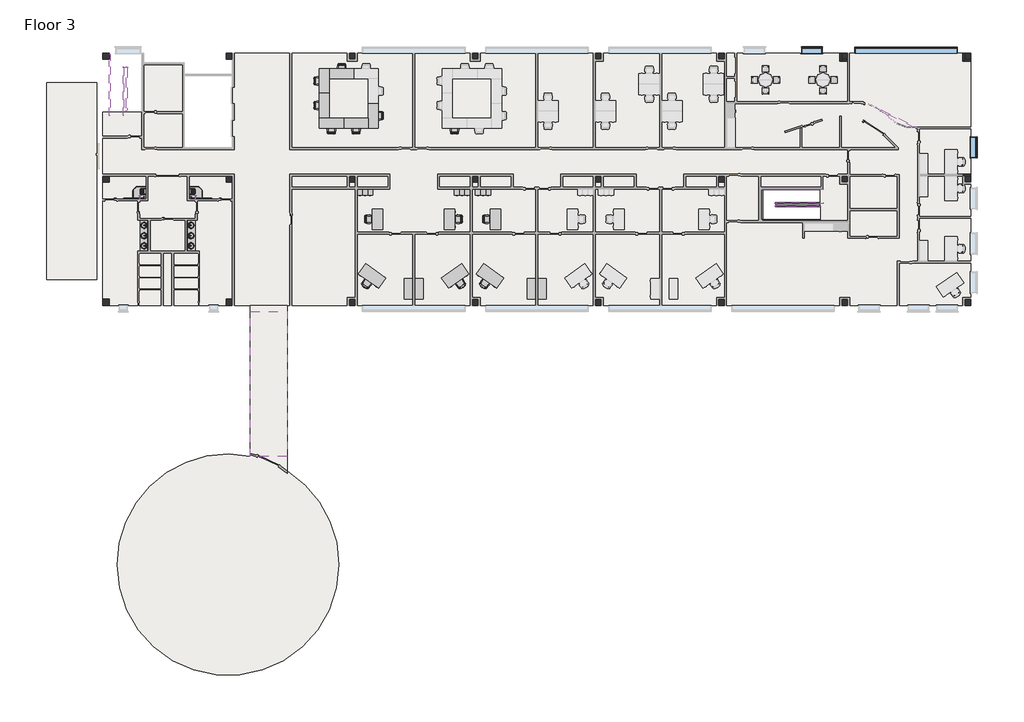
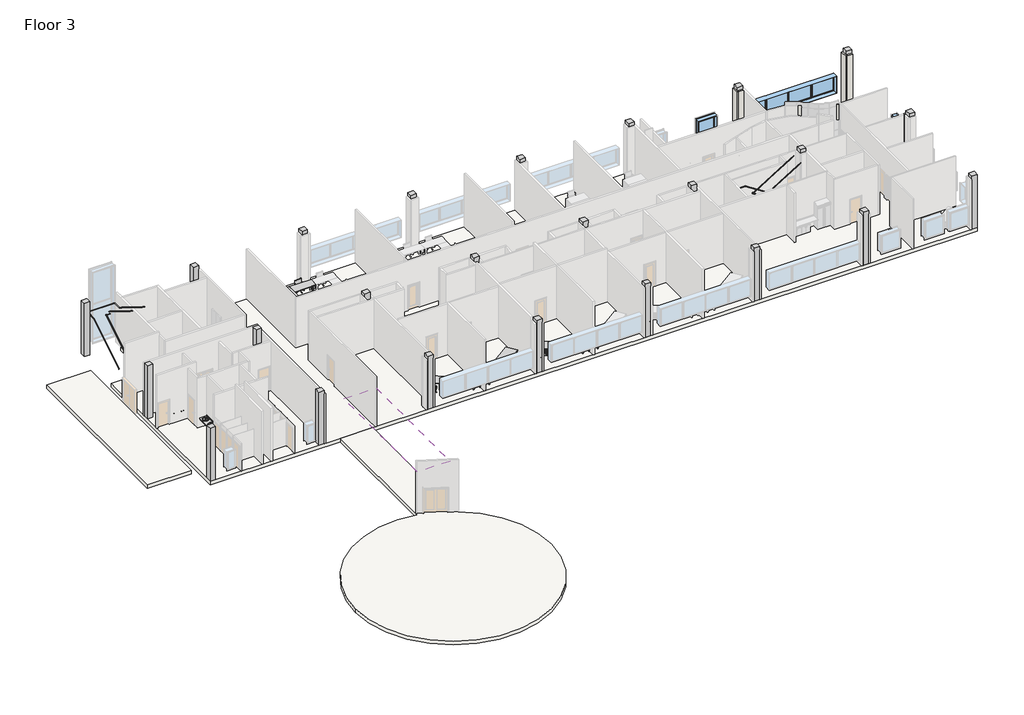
# One storey, part 5 of 6: 40 furniture elements, 24 columns, 16 flow terminals, 6 railings, 6 walls, 3 slabs, 3 windows, 1 covering.
"""IFC4 building model written with IfcOpenShell, lengths in millimetres."""

from ifc_helpers import new_model, si_unit, point, frame, frame_2d, origin, place, context, project, spatial, polyline, circle_curve, trimmed, segment, composite_curve, outline, extrude, faceted_brep, transform, mapped, element, save
from components import column_2b57f2af, grab_rail_horizontal_grab_bar_horizontal_3488bc9b, grab_rail_horizontal_grab_bar_horizontal_f73a8c0c, shower_head_shower_head_b2a460ee, shower_head_shower_head_3f4786c7, shower_seat_e35f25db, shower_seat_bb0cd458, shower_tray_2_floor_shower_tray_997da0d4, shower_tray_2_floor_shower_tray_7a1f724c, sink_vanity_round_basin_6ecf7a68, furniture_552c1472, furniture_48aa8ab9, chair_executive_chair_executive_8d69e98c, chair_executive_chair_executive_a5be4872, chair_task_arms_chair_task_arms_fa5a08ef, chair_task_arms_chair_task_arms_3c69ee15, furniture_0f0bb7e9, furniture_a9e97cbc, furniture_f1eb905c, furniture_e30ff25b, furniture_33f25304, furniture_65204735, plumbing_fixtures_counter_top_w_sinks_2400x600x850mm_820859b4, furniture_a5b052b6, stair_railing_1_335de554, stair_railing_1_2cf15c4a, stair_railing_1_d57b5f3b, stair_railing_1_04a2c75b, stair_railing_1_a30edcdb, stair_railing_1_ea28da98, window_casement_multi_sash_horizontal_25_x_5ft_0e5d08e3, window_45f0c9e0

model = new_model("IFC4")

# Units and contexts
model_context = context("Model", 3, world=origin())
ifc_project = project(units=[si_unit("LENGTHUNIT", "METRE", prefix="MILLI")], contexts=[model_context])

# Site, building, storey
site = spatial("IfcSite", under=ifc_project)
building = spatial("IfcBuilding", under=site)
storey = spatial("IfcBuildingStorey", under=building, Name="Floor 3", Elevation=10210.8)

# Columns
placement = place(None, origin())
element("IfcColumn", 1, ObjectType="Rectangular Column1 : 18\" x 18\"", at=placement, inside=storey, context=model_context, shape_type="SweptSolid", body=[
    extrude(outline(polyline([(6637.3692024, 39077.111889), (6637.3692024, 38619.911889), (6180.1692024, 38619.911889), (6180.1692024, 39077.111889), (6637.3692024, 39077.111889)])), frame((0.0, 0.0, 10210.8), z_axis=(0.0, 0.0, 1.0), x_axis=(1.0, 0.0, 0.0)), (0.0, 0.0, 1.0), 4724.4),
])
element("IfcColumn", 2, ObjectType="Rectangular Column1 : 18\" x 18\"", at=placement, inside=storey, context=model_context, shape_type="SweptSolid", body=[
    extrude(outline(polyline([(15781.3692024, 39077.111889), (15781.3692024, 38619.911889), (15324.1692024, 38619.911889), (15324.1692024, 39077.111889), (15781.3692024, 39077.111889)])), frame((0.0, 0.0, 10210.8), z_axis=(0.0, 0.0, 1.0), x_axis=(1.0, 0.0, 0.0)), (0.0, 0.0, 1.0), 4724.4),
])
element("IfcColumn", 3, ObjectType="Rectangular Column1 : 18\" x 18\"", at=placement, inside=storey, context=model_context, shape_type="SweptSolid", body=[
    extrude(outline(polyline([(24925.3692024, 39077.111889), (24925.3692024, 38619.911889), (24468.1692024, 38619.911889), (24468.1692024, 39077.111889), (24925.3692024, 39077.111889)])), frame((0.0, 0.0, 10210.8), z_axis=(0.0, 0.0, 1.0), x_axis=(1.0, 0.0, 0.0)), (0.0, 0.0, 1.0), 4724.4),
])
element("IfcColumn", 4, ObjectType="Rectangular Column1 : 18\" x 18\"", at=placement, inside=storey, context=model_context, shape_type="SweptSolid", body=[
    extrude(outline(polyline([(34069.3692024, 39077.111889), (34069.3692024, 38619.911889), (33612.1692024, 38619.911889), (33612.1692024, 39077.111889), (34069.3692024, 39077.111889)])), frame((0.0, 0.0, 10210.8), z_axis=(0.0, 0.0, 1.0), x_axis=(1.0, 0.0, 0.0)), (0.0, 0.0, 1.0), 4724.4),
])
element("IfcColumn", 5, ObjectType="Rectangular Column1 : 18\" x 18\"", at=placement, inside=storey, context=model_context, shape_type="SweptSolid", body=[
    extrude(outline(polyline([(43213.3692024, 39077.111889), (43213.3692024, 38619.911889), (42756.1692024, 38619.911889), (42756.1692024, 39077.111889), (43213.3692024, 39077.111889)])), frame((0.0, 0.0, 10210.8), z_axis=(0.0, 0.0, 1.0), x_axis=(1.0, 0.0, 0.0)), (0.0, 0.0, 1.0), 4724.4),
])
element("IfcColumn", 6, ObjectType="Rectangular Column1 : 18\" x 18\"", at=placement, inside=storey, context=model_context, shape_type="SweptSolid", body=[
    extrude(outline(polyline([(52357.3692024, 39077.111889), (52357.3692024, 38619.911889), (51900.1692024, 38619.911889), (51900.1692024, 39077.111889), (52357.3692024, 39077.111889)])), frame((0.0, 0.0, 10210.8), z_axis=(0.0, 0.0, 1.0), x_axis=(1.0, 0.0, 0.0)), (0.0, 0.0, 1.0), 4724.4),
])
element("IfcColumn", 7, ObjectType="Rectangular Column1 : 18\" x 18\"", at=placement, inside=storey, context=model_context, shape_type="SweptSolid", body=[
    extrude(outline(polyline([(61501.3692024, 39077.111889), (61501.3692024, 38619.911889), (61044.1692024, 38619.911889), (61044.1692024, 39077.111889), (61501.3692024, 39077.111889)])), frame((0.0, 0.0, 10210.8), z_axis=(0.0, 0.0, 1.0), x_axis=(1.0, 0.0, 0.0)), (0.0, 0.0, 1.0), 4724.4),
])
element("IfcColumn", 8, ObjectType="Rectangular Column1 : 18\" x 18\"", at=placement, inside=storey, context=model_context, shape_type="SweptSolid", body=[
    extrude(outline(polyline([(-2506.6307976, 48221.111889), (-2506.6307976, 47763.911889), (-2963.8307976, 47763.911889), (-2963.8307976, 48221.111889), (-2506.6307976, 48221.111889)])), frame((0.0, 0.0, 10210.8), z_axis=(0.0, 0.0, 1.0), x_axis=(1.0, 0.0, 0.0)), (0.0, 0.0, 1.0), 4724.4),
])
element("IfcColumn", 9, ObjectType="Rectangular Column1 : 18\" x 18\"", at=placement, inside=storey, context=model_context, shape_type="SweptSolid", body=[
    extrude(outline(polyline([(6637.3692024, 48221.111889), (6637.3692024, 47763.911889), (6180.1692024, 47763.911889), (6180.1692024, 48221.111889), (6637.3692024, 48221.111889)])), frame((0.0, 0.0, 10210.8), z_axis=(0.0, 0.0, 1.0), x_axis=(1.0, 0.0, 0.0)), (0.0, 0.0, 1.0), 4724.4),
])
element("IfcColumn", 10, ObjectType="Rectangular Column1 : 18\" x 18\"", at=placement, inside=storey, context=model_context, shape_type="SweptSolid", body=[
    extrude(outline(polyline([(15781.3692024, 48221.111889), (15781.3692024, 47763.911889), (15324.1692024, 47763.911889), (15324.1692024, 48221.111889), (15781.3692024, 48221.111889)])), frame((0.0, 0.0, 10210.8), z_axis=(0.0, 0.0, 1.0), x_axis=(1.0, 0.0, 0.0)), (0.0, 0.0, 1.0), 4724.4),
])
element("IfcColumn", 11, ObjectType="Rectangular Column1 : 18\" x 18\"", at=placement, inside=storey, context=model_context, shape_type="SweptSolid", body=[
    extrude(outline(polyline([(24925.3692024, 48221.111889), (24925.3692024, 47763.911889), (24468.1692024, 47763.911889), (24468.1692024, 48221.111889), (24925.3692024, 48221.111889)])), frame((0.0, 0.0, 10210.8), z_axis=(0.0, 0.0, 1.0), x_axis=(1.0, 0.0, 0.0)), (0.0, 0.0, 1.0), 4724.4),
])
element("IfcColumn", 12, ObjectType="Rectangular Column1 : 18\" x 18\"", at=placement, inside=storey, context=model_context, shape_type="SweptSolid", body=[
    extrude(outline(polyline([(34069.3692024, 48221.111889), (34069.3692024, 47763.911889), (33612.1692024, 47763.911889), (33612.1692024, 48221.111889), (34069.3692024, 48221.111889)])), frame((0.0, 0.0, 10210.8), z_axis=(0.0, 0.0, 1.0), x_axis=(1.0, 0.0, 0.0)), (0.0, 0.0, 1.0), 4724.4),
])
element("IfcColumn", 13, ObjectType="Rectangular Column1 : 18\" x 18\"", at=placement, inside=storey, context=model_context, shape_type="SweptSolid", body=[
    extrude(outline(polyline([(43213.3692024, 48221.111889), (43213.3692024, 47763.911889), (42756.1692024, 47763.911889), (42756.1692024, 48221.111889), (43213.3692024, 48221.111889)])), frame((0.0, 0.0, 10210.8), z_axis=(0.0, 0.0, 1.0), x_axis=(1.0, 0.0, 0.0)), (0.0, 0.0, 1.0), 4724.4),
])
element("IfcColumn", 14, ObjectType="Rectangular Column1 : 18\" x 18\"", at=placement, inside=storey, context=model_context, shape_type="SweptSolid", body=[
    extrude(outline(polyline([(52354.1942024, 48221.111889), (52354.1942024, 47763.911889), (51896.9942024, 47763.911889), (51896.9942024, 48221.111889), (52354.1942024, 48221.111889)])), frame((0.0, 0.0, 10210.8), z_axis=(0.0, 0.0, 1.0), x_axis=(1.0, 0.0, 0.0)), (0.0, 0.0, 1.0), 4724.4),
])
element("IfcColumn", 15, ObjectType="Rectangular Column1 : 18\" x 18\"", at=placement, inside=storey, context=model_context, shape_type="SweptSolid", body=[
    extrude(outline(polyline([(61501.3692024, 48221.111889), (61501.3692024, 47763.911889), (61044.1692024, 47763.911889), (61044.1692024, 48221.111889), (61501.3692024, 48221.111889)])), frame((0.0, 0.0, 10210.8), z_axis=(0.0, 0.0, 1.0), x_axis=(1.0, 0.0, 0.0)), (0.0, 0.0, 1.0), 4724.4),
])
element("IfcColumn", 16, ObjectType="Rectangular Column1 : 18\" x 18\"", at=placement, inside=storey, context=model_context, shape_type="SweptSolid", body=[
    extrude(outline(polyline([(6637.3692024, 57365.111889), (6637.3692024, 56907.911889), (6180.1692024, 56907.911889), (6180.1692024, 57365.111889), (6637.3692024, 57365.111889)])), frame((0.0, 0.0, 10210.8), z_axis=(0.0, 0.0, 1.0), x_axis=(1.0, 0.0, 0.0)), (0.0, 0.0, 1.0), 4724.4),
])
element("IfcColumn", 17, ObjectType="Rectangular Column1 : 18\" x 18\"", at=placement, inside=storey, context=model_context, shape_type="SweptSolid", body=[
    extrude(outline(polyline([(15781.3692024, 57365.111889), (15781.3692024, 56907.911889), (15324.1692024, 56907.911889), (15324.1692024, 57365.111889), (15781.3692024, 57365.111889)])), frame((0.0, 0.0, 10210.8), z_axis=(0.0, 0.0, 1.0), x_axis=(1.0, 0.0, 0.0)), (0.0, 0.0, 1.0), 4724.4),
])
element("IfcColumn", 18, ObjectType="Rectangular Column1 : 18\" x 18\"", at=placement, inside=storey, context=model_context, shape_type="SweptSolid", body=[
    extrude(outline(polyline([(24925.3692024, 57365.111889), (24925.3692024, 56907.911889), (24468.1692024, 56907.911889), (24468.1692024, 57365.111889), (24925.3692024, 57365.111889)])), frame((0.0, 0.0, 10210.8), z_axis=(0.0, 0.0, 1.0), x_axis=(1.0, 0.0, 0.0)), (0.0, 0.0, 1.0), 4724.4),
])
element("IfcColumn", 19, ObjectType="Rectangular Column1 : 18\" x 18\"", at=placement, inside=storey, context=model_context, shape_type="SweptSolid", body=[
    extrude(outline(polyline([(34069.3692024, 57365.111889), (34069.3692024, 56907.911889), (33612.1692024, 56907.911889), (33612.1692024, 57365.111889), (34069.3692024, 57365.111889)])), frame((0.0, 0.0, 10210.8), z_axis=(0.0, 0.0, 1.0), x_axis=(1.0, 0.0, 0.0)), (0.0, 0.0, 1.0), 4724.4),
])
element("IfcColumn", 20, ObjectType="Rectangular Column1 : 18\" x 18\"", at=placement, inside=storey, context=model_context, shape_type="SweptSolid", body=[
    extrude(outline(polyline([(43213.3692024, 57365.111889), (43213.3692024, 56907.911889), (42756.1692024, 56907.911889), (42756.1692024, 57365.111889), (43213.3692024, 57365.111889)])), frame((0.0, 0.0, 10210.8), z_axis=(0.0, 0.0, 1.0), x_axis=(1.0, 0.0, 0.0)), (0.0, 0.0, 1.0), 4724.4),
])
element("IfcColumn", 21, ObjectType="Rectangular Column1 : 18\" x 18\"", at=placement, inside=storey, context=model_context, shape_type="SweptSolid", body=[
    extrude(outline(polyline([(52357.3692024, 57365.111889), (52357.3692024, 56907.911889), (51900.1692024, 56907.911889), (51900.1692024, 57365.111889), (52357.3692024, 57365.111889)])), frame((0.0, 0.0, 10210.8), z_axis=(0.0, 0.0, 1.0), x_axis=(1.0, 0.0, 0.0)), (0.0, 0.0, 1.0), 4724.4),
])
element("IfcColumn", 22, ObjectType="Rectangular Column1 : 18\" x 18\"", at=placement, inside=storey, context=model_context, shape_type="SweptSolid", body=[
    extrude(outline(polyline([(61501.3692024, 57365.111889), (61501.3692024, 56907.911889), (61044.1692024, 56907.911889), (61044.1692024, 57365.111889), (61501.3692024, 57365.111889)])), frame((0.0, 0.0, 10210.8), z_axis=(0.0, 0.0, 1.0), x_axis=(1.0, 0.0, 0.0)), (0.0, 0.0, 1.0), 4724.4),
])
column_shape = column_2b57f2af(model_context)
element("IfcColumn", 23, ObjectType="Rectangular Column1 : 18\" x 18\"", at=placement, inside=storey, context=model_context, shape_type="MappedRepresentation", body=[
    mapped(column_shape, transform((-2735.2307976, 38848.511889, 0.0), x_axis=(1.0, 0.0, 0.0), y_axis=(0.0, 1.0, 0.0), z_axis=(0.0, 0.0, 1.0))),
])
element("IfcColumn", 24, ObjectType="Rectangular Column1 : 18\" x 18\"", at=placement, inside=storey, context=model_context, shape_type="MappedRepresentation", body=[
    mapped(column_shape, transform((-2735.2307976, 57136.511889, 0.0), x_axis=(1.0, 0.0, 0.0), y_axis=(0.0, 1.0, 0.0), z_axis=(0.0, 0.0, 1.0))),
])

# Covering
element("IfcCovering", 25, ObjectType="2' x 2' ACT System", at=placement, inside=storey, context=model_context, shape_type="SweptSolid", body=[
    extrude(outline(polyline([(7986.4026119, 38164.299389), (10723.2526119, 38164.299389), (10723.2526119, 27403.0208402), (7986.4026119, 27403.0208402), (7986.4026119, 38164.299389)])), frame((0.0, 0.0, 14020.8), z_axis=(0.0, 0.0, 1.0), x_axis=(1.0, 0.0, 0.0)), (0.0, 0.0, 1.0), 57.15),
])

# Flow terminals
grab_rail_horizontal_grab_bar_horizontal_shape = grab_rail_horizontal_grab_bar_horizontal_3488bc9b(model_context)
element("IfcFlowTerminal", 26, ObjectType="Grab Rail - Horizontal : Grab Bar Horizontal", at=placement, inside=storey, context=model_context, shape_type="MappedRepresentation", body=[
    mapped(grab_rail_horizontal_grab_bar_horizontal_shape, transform((3129.9735359, 46520.961889, 10210.8), x_axis=(-1.0, 0.0, 0.0), y_axis=(0.0, -1.0, 0.0), z_axis=(0.0, 0.0, 1.0))),
])
element("IfcFlowTerminal", 27, ObjectType="Grab Rail - Horizontal : Grab Bar Horizontal", at=placement, inside=storey, context=model_context, shape_type="MappedRepresentation", body=[
    mapped(grab_rail_horizontal_grab_bar_horizontal_shape, transform((3939.9735359, 46520.961889, 10210.8), x_axis=(-1.0, 0.0, 0.0), y_axis=(0.0, -1.0, 0.0), z_axis=(0.0, 0.0, 1.0))),
])
grab_rail_horizontal_grab_bar_horizontal_2_shape = grab_rail_horizontal_grab_bar_horizontal_f73a8c0c(model_context)
element("IfcFlowTerminal", 28, ObjectType="Grab Rail - Horizontal : Grab Bar Horizontal", at=placement, inside=storey, context=model_context, shape_type="MappedRepresentation", body=[
    mapped(grab_rail_horizontal_grab_bar_horizontal_2_shape, transform((543.5648689, 46520.961889, 10210.8), x_axis=(1.0, 0.0, 0.0), y_axis=(0.0, 1.0, 0.0), z_axis=(0.0, 0.0, 1.0))),
])
element("IfcFlowTerminal", 29, ObjectType="Grab Rail - Horizontal : Grab Bar Horizontal", at=placement, inside=storey, context=model_context, shape_type="MappedRepresentation", body=[
    mapped(grab_rail_horizontal_grab_bar_horizontal_2_shape, transform((-266.4351311, 46520.961889, 10210.8), x_axis=(1.0, 0.0, 0.0), y_axis=(0.0, 1.0, 0.0), z_axis=(0.0, 0.0, 1.0))),
])
shower_head_shower_head_shape = shower_head_shower_head_b2a460ee(model_context)
element("IfcFlowTerminal", 30, ObjectType="Shower Head : Shower Head", at=placement, inside=storey, context=model_context, shape_type="MappedRepresentation", body=[
    mapped(shower_head_shower_head_shape, transform((-227.2307976, 46520.961889, 10210.8), x_axis=(1.0, 0.0, 0.0), y_axis=(0.0, 1.0, 0.0), z_axis=(0.0, 0.0, 1.0))),
])
shower_head_shower_head_2_shape = shower_head_shower_head_3f4786c7(model_context)
element("IfcFlowTerminal", 31, ObjectType="Shower Head : Shower Head", at=placement, inside=storey, context=model_context, shape_type="MappedRepresentation", body=[
    mapped(shower_head_shower_head_2_shape, transform((3900.7692024, 46520.961889, 10210.8), x_axis=(-1.0, 0.0, 0.0), y_axis=(0.0, -1.0, 0.0), z_axis=(0.0, 0.0, 1.0))),
])
shower_seat_shape = shower_seat_e35f25db(model_context)
element("IfcFlowTerminal", 32, ObjectType="Shower - Disabled  Seat : Shower Seat", at=placement, inside=storey, context=model_context, shape_type="MappedRepresentation", body=[
    mapped(shower_seat_shape, transform((242.9192024, 47086.6956616, 10210.8), x_axis=(0.0, 1.0, 0.0), y_axis=(-1.0, 0.0, 0.0), z_axis=(0.0, 0.0, 1.0))),
])
shower_seat_2_shape = shower_seat_bb0cd458(model_context)
element("IfcFlowTerminal", 33, ObjectType="Shower - Disabled  Seat : Shower Seat", at=placement, inside=storey, context=model_context, shape_type="MappedRepresentation", body=[
    mapped(shower_seat_2_shape, transform((3430.6192024, 47086.6956616, 10210.8), x_axis=(0.0, 1.0, 0.0), y_axis=(-1.0, 0.0, 0.0), z_axis=(0.0, 0.0, 1.0))),
])
shower_tray_2_floor_shower_tray_shape = shower_tray_2_floor_shower_tray_997da0d4(model_context)
element("IfcFlowTerminal", 34, ObjectType="Shower Tray (2) : Floor Shower Tray", at=placement, inside=storey, context=model_context, shape_type="MappedRepresentation", body=[
    mapped(shower_tray_2_floor_shower_tray_shape, transform((3430.6192024, 46520.961889, 10210.8), x_axis=(0.0, -1.0, 0.0), y_axis=(1.0, 0.0, 0.0), z_axis=(0.0, 0.0, 1.0))),
])
shower_tray_2_floor_shower_tray_2_shape = shower_tray_2_floor_shower_tray_7a1f724c(model_context)
element("IfcFlowTerminal", 35, ObjectType="Shower Tray (2) : Floor Shower Tray", at=placement, inside=storey, context=model_context, shape_type="MappedRepresentation", body=[
    mapped(shower_tray_2_floor_shower_tray_2_shape, transform((242.9192024, 46520.961889, 10210.8), x_axis=(0.0, -1.0, 0.0), y_axis=(1.0, 0.0, 0.0), z_axis=(0.0, 0.0, 1.0))),
])
sink_vanity_round_basin_shape = sink_vanity_round_basin_6ecf7a68(model_context)
element("IfcFlowTerminal", 36, ObjectType="Sink - Vanity - Round : Basin", at=placement, inside=storey, context=model_context, shape_type="MappedRepresentation", body=[
    mapped(sink_vanity_round_basin_shape, transform((10.1514839, 43898.1636296, 10286.6), x_axis=(0.0, -1.0, 0.0), y_axis=(1.0, 0.0, 0.0), z_axis=(0.0, 0.0, 1.0))),
])
element("IfcFlowTerminal", 37, ObjectType="Sink - Vanity - Round : Basin", at=placement, inside=storey, context=model_context, shape_type="MappedRepresentation", body=[
    mapped(sink_vanity_round_basin_shape, transform((10.1514839, 44660.1636296, 10287.0), x_axis=(0.0, -1.0, 0.0), y_axis=(1.0, 0.0, 0.0), z_axis=(0.0, 0.0, 1.0))),
])
element("IfcFlowTerminal", 38, ObjectType="Sink - Vanity - Round : Basin", at=placement, inside=storey, context=model_context, shape_type="MappedRepresentation", body=[
    mapped(sink_vanity_round_basin_shape, transform((10.1514839, 43136.1636296, 10286.2), x_axis=(0.0, -1.0, 0.0), y_axis=(1.0, 0.0, 0.0), z_axis=(0.0, 0.0, 1.0))),
])
element("IfcFlowTerminal", 39, ObjectType="Sink - Vanity - Round : Basin", at=placement, inside=storey, context=model_context, shape_type="MappedRepresentation", body=[
    mapped(sink_vanity_round_basin_shape, transform((3663.3869209, 43704.8601484, 10286.6), x_axis=(0.0, 1.0, 0.0), y_axis=(-1.0, 0.0, 0.0), z_axis=(0.0, 0.0, 1.0))),
])
element("IfcFlowTerminal", 40, ObjectType="Sink - Vanity - Round : Basin", at=placement, inside=storey, context=model_context, shape_type="MappedRepresentation", body=[
    mapped(sink_vanity_round_basin_shape, transform((3663.3869209, 42942.8601484, 10287.0), x_axis=(0.0, 1.0, 0.0), y_axis=(-1.0, 0.0, 0.0), z_axis=(0.0, 0.0, 1.0))),
])
element("IfcFlowTerminal", 41, ObjectType="Sink - Vanity - Round : Basin", at=placement, inside=storey, context=model_context, shape_type="MappedRepresentation", body=[
    mapped(sink_vanity_round_basin_shape, transform((3663.3869209, 44466.8601484, 10286.2), x_axis=(0.0, 1.0, 0.0), y_axis=(-1.0, 0.0, 0.0), z_axis=(0.0, 0.0, 1.0))),
])

# Furniture
furniture_shape = furniture_552c1472(model_context)
element("IfcFurniture", 42, ObjectType="Cabinet-File 3 Drawer : 15\" x 18\"", at=placement, inside=storey, context=model_context, shape_type="MappedRepresentation", body=[
    mapped(furniture_shape, transform((25015.1656494, 47175.7961891, 10210.8), x_axis=(1.0, 0.0, 0.0), y_axis=(0.0, 1.0, 0.0), z_axis=(0.0, 0.0, 1.0))),
])
element("IfcFurniture", 43, ObjectType="Cabinet-File 3 Drawer : 15\" x 18\"", at=placement, inside=storey, context=model_context, shape_type="MappedRepresentation", body=[
    mapped(furniture_shape, transform((25396.1656494, 47175.7961891, 10210.8), x_axis=(1.0, 0.0, 0.0), y_axis=(0.0, 1.0, 0.0), z_axis=(0.0, 0.0, 1.0))),
])
element("IfcFurniture", 44, ObjectType="Cabinet-File 3 Drawer : 15\" x 18\"", at=placement, inside=storey, context=model_context, shape_type="MappedRepresentation", body=[
    mapped(furniture_shape, transform((25777.1656494, 47175.7961891, 10210.8), x_axis=(1.0, 0.0, 0.0), y_axis=(0.0, 1.0, 0.0), z_axis=(0.0, 0.0, 1.0))),
])
element("IfcFurniture", 45, ObjectType="Cabinet-File 3 Drawer : 15\" x 18\"", at=placement, inside=storey, context=model_context, shape_type="MappedRepresentation", body=[
    mapped(furniture_shape, transform((16252.1656494, 47175.7961891, 10210.8), x_axis=(1.0, 0.0, 0.0), y_axis=(0.0, 1.0, 0.0), z_axis=(0.0, 0.0, 1.0))),
])
element("IfcFurniture", 46, ObjectType="Cabinet-File 3 Drawer : 15\" x 18\"", at=placement, inside=storey, context=model_context, shape_type="MappedRepresentation", body=[
    mapped(furniture_shape, transform((16633.1656494, 47175.7961891, 10210.8), x_axis=(1.0, 0.0, 0.0), y_axis=(0.0, 1.0, 0.0), z_axis=(0.0, 0.0, 1.0))),
])
element("IfcFurniture", 47, ObjectType="Cabinet-File 3 Drawer : 15\" x 18\"", at=placement, inside=storey, context=model_context, shape_type="MappedRepresentation", body=[
    mapped(furniture_shape, transform((17014.1656494, 47175.7961891, 10210.8), x_axis=(1.0, 0.0, 0.0), y_axis=(0.0, 1.0, 0.0), z_axis=(0.0, 0.0, 1.0))),
])
furniture_2_shape = furniture_48aa8ab9(model_context)
element("IfcFurniture", 48, ObjectType="Cabinet-File 3 Drawer : 15\" x 18\"", at=placement, inside=storey, context=model_context, shape_type="MappedRepresentation", body=[
    mapped(furniture_2_shape, transform((23971.9727553, 47175.7961891, 10210.8), x_axis=(-1.0, 0.0, 0.0), y_axis=(0.0, -1.0, 0.0), z_axis=(0.0, 0.0, 1.0))),
])
element("IfcFurniture", 49, ObjectType="Cabinet-File 3 Drawer : 15\" x 18\"", at=placement, inside=storey, context=model_context, shape_type="MappedRepresentation", body=[
    mapped(furniture_2_shape, transform((23590.9727553, 47175.7961891, 10210.8), x_axis=(-1.0, 0.0, 0.0), y_axis=(0.0, -1.0, 0.0), z_axis=(0.0, 0.0, 1.0))),
])
element("IfcFurniture", 50, ObjectType="Cabinet-File 3 Drawer : 15\" x 18\"", at=placement, inside=storey, context=model_context, shape_type="MappedRepresentation", body=[
    mapped(furniture_2_shape, transform((23209.9727553, 47175.7961891, 10210.8), x_axis=(-1.0, 0.0, 0.0), y_axis=(0.0, -1.0, 0.0), z_axis=(0.0, 0.0, 1.0))),
])
chair_executive_chair_executive_shape = chair_executive_chair_executive_8d69e98c(model_context)
element("IfcFurniture", 51, ObjectType="Chair-Executive : Chair-Executive", at=placement, inside=storey, context=model_context, shape_type="MappedRepresentation", body=[
    mapped(chair_executive_chair_executive_shape, transform((25274.595015, 40313.6122918, 10210.8), x_axis=(0.819152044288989, -0.57357643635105, 0.0), y_axis=(0.57357643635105, 0.819152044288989, 0.0), z_axis=(0.0, 0.0, 1.0))),
])
element("IfcFurniture", 52, ObjectType="Chair-Executive : Chair-Executive", at=placement, inside=storey, context=model_context, shape_type="MappedRepresentation", body=[
    mapped(chair_executive_chair_executive_shape, transform((16511.595015, 40313.6122918, 10210.8), x_axis=(0.819152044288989, -0.57357643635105, 0.0), y_axis=(0.57357643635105, 0.819152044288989, 0.0), z_axis=(0.0, 0.0, 1.0))),
])
chair_executive_chair_executive_2_shape = chair_executive_chair_executive_a5be4872(model_context)
element("IfcFurniture", 53, ObjectType="Chair-Executive : Chair-Executive", at=placement, inside=storey, context=model_context, shape_type="MappedRepresentation", body=[
    mapped(chair_executive_chair_executive_2_shape, transform((23712.5433897, 40313.6122918, 10210.8), x_axis=(-0.819152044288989, -0.57357643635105, 0.0), y_axis=(0.57357643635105, -0.819152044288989, 0.0), z_axis=(0.0, 0.0, 1.0))),
])
chair_task_arms_chair_task_arms_shape = chair_task_arms_chair_task_arms_fa5a08ef(model_context)
element("IfcFurniture", 54, ObjectType="Chair-Task Arms : Chair-Task Arms", at=placement, inside=storey, context=model_context, shape_type="MappedRepresentation", body=[
    mapped(chair_task_arms_chair_task_arms_shape, transform((25509.6733007, 45161.7027087, 10210.8), x_axis=(0.0, -1.0, 0.0), y_axis=(1.0, 0.0, 0.0), z_axis=(0.0, 0.0, 1.0))),
])
element("IfcFurniture", 55, ObjectType="Chair-Task Arms : Chair-Task Arms", at=placement, inside=storey, context=model_context, shape_type="MappedRepresentation", body=[
    mapped(chair_task_arms_chair_task_arms_shape, transform((16746.6733007, 45161.7027087, 10210.8), x_axis=(0.0, -1.0, 0.0), y_axis=(1.0, 0.0, 0.0), z_axis=(0.0, 0.0, 1.0))),
])
element("IfcFurniture", 56, ObjectType="Chair-Task Arms : Chair-Task Arms", at=placement, inside=storey, context=model_context, shape_type="MappedRepresentation", body=[
    mapped(chair_task_arms_chair_task_arms_shape, transform((13867.7188499, 51632.7534874, 10210.8), x_axis=(1.0, 0.0, 0.0), y_axis=(0.0, 1.0, 0.0), z_axis=(0.0, 0.0, 1.0))),
])
element("IfcFurniture", 57, ObjectType="Chair-Task Arms : Chair-Task Arms", at=placement, inside=storey, context=model_context, shape_type="MappedRepresentation", body=[
    mapped(chair_task_arms_chair_task_arms_shape, transform((15696.5188499, 51632.7534874, 10210.8), x_axis=(1.0, 0.0, 0.0), y_axis=(0.0, 1.0, 0.0), z_axis=(0.0, 0.0, 1.0))),
])
element("IfcFurniture", 58, ObjectType="Chair-Task Arms : Chair-Task Arms", at=placement, inside=storey, context=model_context, shape_type="MappedRepresentation", body=[
    mapped(chair_task_arms_chair_task_arms_shape, transform((17603.715104, 52572.8924709, 10210.8), x_axis=(0.0, 1.0, 0.0), y_axis=(-1.0, 0.0, 0.0), z_axis=(0.0, 0.0, 1.0))),
])
element("IfcFurniture", 59, ObjectType="Chair-Task Arms : Chair-Task Arms", at=placement, inside=storey, context=model_context, shape_type="MappedRepresentation", body=[
    mapped(chair_task_arms_chair_task_arms_shape, transform((14911.7004892, 56317.2577906, 10210.8), x_axis=(-1.0, 0.0, 0.0), y_axis=(0.0, -1.0, 0.0), z_axis=(0.0, 0.0, 1.0))),
])
element("IfcFurniture", 60, ObjectType="Chair-Task Arms : Chair-Task Arms", at=placement, inside=storey, context=model_context, shape_type="MappedRepresentation", body=[
    mapped(chair_task_arms_chair_task_arms_shape, transform((12968.4233007, 55445.6741102, 10210.8), x_axis=(0.0, -1.0, 0.0), y_axis=(1.0, 0.0, 0.0), z_axis=(0.0, 0.0, 1.0))),
])
element("IfcFurniture", 61, ObjectType="Chair-Task Arms : Chair-Task Arms", at=placement, inside=storey, context=model_context, shape_type="MappedRepresentation", body=[
    mapped(chair_task_arms_chair_task_arms_shape, transform((12968.4233007, 53616.8741102, 10210.8), x_axis=(0.0, -1.0, 0.0), y_axis=(1.0, 0.0, 0.0), z_axis=(0.0, 0.0, 1.0))),
])
element("IfcFurniture", 62, ObjectType="Chair-Task Arms : Chair-Task Arms", at=placement, inside=storey, context=model_context, shape_type="MappedRepresentation", body=[
    mapped(chair_task_arms_chair_task_arms_shape, transform((23011.7188499, 51632.7534874, 10210.8), x_axis=(1.0, 0.0, 0.0), y_axis=(0.0, 1.0, 0.0), z_axis=(0.0, 0.0, 1.0))),
])
chair_task_arms_chair_task_arms_2_shape = chair_task_arms_chair_task_arms_3c69ee15(model_context)
element("IfcFurniture", 63, ObjectType="Chair-Task Arms : Chair-Task Arms", at=placement, inside=storey, context=model_context, shape_type="MappedRepresentation", body=[
    mapped(chair_task_arms_chair_task_arms_2_shape, transform((23477.465104, 45161.7027087, 10210.8), x_axis=(0.0, -1.0, 0.0), y_axis=(1.0, 0.0, 0.0), z_axis=(0.0, 0.0, 1.0))),
])
furniture_3_shape = furniture_0f0bb7e9(model_context)
element("IfcFurniture", 64, ObjectType="Credenza : 60\" x 24\"", at=placement, inside=storey, context=model_context, shape_type="MappedRepresentation", body=[
    mapped(furniture_3_shape, transform((29647.9995302, 39804.9676267, 10210.8), x_axis=(0.0, 1.0, 0.0), y_axis=(-1.0, 0.0, 0.0), z_axis=(0.0, 0.0, 1.0))),
])
element("IfcFurniture", 65, ObjectType="Credenza : 60\" x 24\"", at=placement, inside=storey, context=model_context, shape_type="MappedRepresentation", body=[
    mapped(furniture_3_shape, transform((20503.9995302, 39804.9676267, 10210.8), x_axis=(0.0, 1.0, 0.0), y_axis=(-1.0, 0.0, 0.0), z_axis=(0.0, 0.0, 1.0))),
])
furniture_4_shape = furniture_a9e97cbc(model_context)
element("IfcFurniture", 66, ObjectType="Credenza : 60\" x 24\"", at=placement, inside=storey, context=model_context, shape_type="MappedRepresentation", body=[
    mapped(furniture_4_shape, transform((28889.5388745, 39804.9676267, 10210.8), x_axis=(0.0, 1.0, 0.0), y_axis=(-1.0, 0.0, 0.0), z_axis=(0.0, 0.0, 1.0))),
])
element("IfcFurniture", 67, ObjectType="Credenza : 60\" x 24\"", at=placement, inside=storey, context=model_context, shape_type="MappedRepresentation", body=[
    mapped(furniture_4_shape, transform((19745.5388745, 39804.9676267, 10210.8), x_axis=(0.0, 1.0, 0.0), y_axis=(-1.0, 0.0, 0.0), z_axis=(0.0, 0.0, 1.0))),
])
furniture_5_shape = furniture_f1eb905c(model_context)
element("IfcFurniture", 68, ObjectType="Desk : 60\" x 30\"", at=placement, inside=storey, context=model_context, shape_type="MappedRepresentation", body=[
    mapped(furniture_5_shape, transform((25833.4192024, 45782.711889, 10210.8), x_axis=(0.0, -1.0, 0.0), y_axis=(1.0, 0.0, 0.0), z_axis=(0.0, 0.0, 1.0))),
])
element("IfcFurniture", 69, ObjectType="Desk : 60\" x 30\"", at=placement, inside=storey, context=model_context, shape_type="MappedRepresentation", body=[
    mapped(furniture_5_shape, transform((17070.4192024, 45782.711889, 10210.8), x_axis=(0.0, -1.0, 0.0), y_axis=(1.0, 0.0, 0.0), z_axis=(0.0, 0.0, 1.0))),
])
furniture_6_shape = furniture_e30ff25b(model_context)
element("IfcFurniture", 70, ObjectType="Desk : 60\" x 30\"", at=placement, inside=storey, context=model_context, shape_type="MappedRepresentation", body=[
    mapped(furniture_6_shape, transform((23153.7192024, 45782.711889, 10210.8), x_axis=(0.0, -1.0, 0.0), y_axis=(1.0, 0.0, 0.0), z_axis=(0.0, 0.0, 1.0))),
])
furniture_7_shape = furniture_33f25304(model_context)
element("IfcFurniture", 71, ObjectType="Desk : 72\" x 36\"", at=placement, inside=storey, context=model_context, shape_type="MappedRepresentation", body=[
    mapped(furniture_7_shape, transform((24951.5870959, 40935.0056416, 10210.8), x_axis=(0.8191520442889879, -0.5735764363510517, 0.0), y_axis=(0.5735764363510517, 0.8191520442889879, 0.0), z_axis=(0.0, 0.0, 1.0))),
])
element("IfcFurniture", 72, ObjectType="Desk : 72\" x 36\"", at=placement, inside=storey, context=model_context, shape_type="MappedRepresentation", body=[
    mapped(furniture_7_shape, transform((16188.5870959, 40935.0056416, 10210.8), x_axis=(0.8191520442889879, -0.5735764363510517, 0.0), y_axis=(0.5735764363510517, 0.8191520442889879, 0.0), z_axis=(0.0, 0.0, 1.0))),
])
furniture_8_shape = furniture_65204735(model_context)
element("IfcFurniture", 73, ObjectType="Desk : 72\" x 36\"", at=placement, inside=storey, context=model_context, shape_type="MappedRepresentation", body=[
    mapped(furniture_8_shape, transform((24035.5513088, 40935.0056416, 10210.8), x_axis=(-0.8191520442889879, -0.5735764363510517, 0.0), y_axis=(0.5735764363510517, -0.8191520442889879, 0.0), z_axis=(0.0, 0.0, 1.0))),
])
plumbing_fixtures_counter_top_w_sinks_2400x600x850mm_shape = plumbing_fixtures_counter_top_w_sinks_2400x600x850mm_820859b4(model_context)
element("IfcFurniture", 74, ObjectType="Plumbing_Fixtures_Counter_Top_w-Sinks : 2400x600x850mm", at=placement, inside=storey, context=model_context, shape_type="MappedRepresentation", body=[
    mapped(plumbing_fixtures_counter_top_w_sinks_2400x600x850mm_shape, transform((465.1692024, 43774.6221928, 10210.8), x_axis=(0.0, 1.0, 0.0), y_axis=(-1.0, 0.0, 0.0), z_axis=(0.0, 0.0, 1.0))),
])
element("IfcFurniture", 75, ObjectType="Plumbing_Fixtures_Counter_Top_w-Sinks : 2400x600x850mm", at=placement, inside=storey, context=model_context, shape_type="MappedRepresentation", body=[
    mapped(plumbing_fixtures_counter_top_w_sinks_2400x600x850mm_shape, transform((3208.3692024, 43828.4015852, 10210.8), x_axis=(0.0, -1.0, 0.0), y_axis=(1.0, 0.0, 0.0), z_axis=(0.0, 0.0, 1.0))),
])
furniture_9_shape = furniture_a5b052b6(model_context)
element("IfcFurniture", 76, ObjectType="Table-Rectangular : 72\" x 30\"", at=placement, inside=storey, context=model_context, shape_type="MappedRepresentation", body=[
    mapped(furniture_9_shape, transform((14770.7096695, 55838.0832906, 10210.8), x_axis=(1.0, 0.0, 0.0), y_axis=(0.0, 1.0, 0.0), z_axis=(0.0, 0.0, 1.0))),
])
element("IfcFurniture", 77, ObjectType="Table-Rectangular : 72\" x 30\"", at=placement, inside=storey, context=model_context, shape_type="MappedRepresentation", body=[
    mapped(furniture_9_shape, transform((13475.3096695, 55304.6832906, 10210.8), x_axis=(0.0, 1.0, 0.0), y_axis=(-1.0, 0.0, 0.0), z_axis=(0.0, 0.0, 1.0))),
])
element("IfcFurniture", 78, ObjectType="Table-Rectangular : 72\" x 30\"", at=placement, inside=storey, context=model_context, shape_type="MappedRepresentation", body=[
    mapped(furniture_9_shape, transform((13475.3096695, 53475.8832906, 10210.8), x_axis=(0.0, 1.0, 0.0), y_axis=(-1.0, 0.0, 0.0), z_axis=(0.0, 0.0, 1.0))),
])
element("IfcFurniture", 79, ObjectType="Table-Rectangular : 72\" x 30\"", at=placement, inside=storey, context=model_context, shape_type="MappedRepresentation", body=[
    mapped(furniture_9_shape, transform((17120.2096695, 52713.8832906, 10210.8), x_axis=(0.0, 1.0, 0.0), y_axis=(-1.0, 0.0, 0.0), z_axis=(0.0, 0.0, 1.0))),
])
element("IfcFurniture", 80, ObjectType="Table-Rectangular : 72\" x 30\"", at=placement, inside=storey, context=model_context, shape_type="MappedRepresentation", body=[
    mapped(furniture_9_shape, transform((14008.7096695, 52167.7832906, 10210.8), x_axis=(-1.0, 0.0, 0.0), y_axis=(0.0, -1.0, 0.0), z_axis=(0.0, 0.0, 1.0))),
])
element("IfcFurniture", 81, ObjectType="Table-Rectangular : 72\" x 30\"", at=placement, inside=storey, context=model_context, shape_type="MappedRepresentation", body=[
    mapped(furniture_9_shape, transform((15837.5096695, 52167.7832906, 10210.8), x_axis=(-1.0, 0.0, 0.0), y_axis=(0.0, -1.0, 0.0), z_axis=(0.0, 0.0, 1.0))),
])

# Railings
stair_railing_1_shape = stair_railing_1_335de554(model_context)
element("IfcRailing", 82, ObjectType="Stair Railing 1", at=placement, inside=storey, context=model_context, shape_type="MappedRepresentation", body=[
    mapped(stair_railing_1_shape, transform((0.0, 0.0, 0.0), x_axis=(1.0, 0.0, 0.0), y_axis=(0.0, 1.0, 0.0), z_axis=(0.0, 0.0, 1.0))),
])
stair_railing_1_2_shape = stair_railing_1_2cf15c4a(model_context)
element("IfcRailing", 83, ObjectType="Stair Railing 1", at=placement, inside=storey, context=model_context, shape_type="MappedRepresentation", body=[
    mapped(stair_railing_1_2_shape, transform((0.0, 0.0, 0.0), x_axis=(1.0, 0.0, 0.0), y_axis=(0.0, 1.0, 0.0), z_axis=(0.0, 0.0, 1.0))),
])
stair_railing_1_3_shape = stair_railing_1_d57b5f3b(model_context)
element("IfcRailing", 84, ObjectType="Stair Railing 1", at=placement, inside=storey, context=model_context, shape_type="MappedRepresentation", body=[
    mapped(stair_railing_1_3_shape, transform((0.0, 0.0, 0.0), x_axis=(1.0, 0.0, 0.0), y_axis=(0.0, 1.0, 0.0), z_axis=(0.0, 0.0, 1.0))),
])
stair_railing_1_4_shape = stair_railing_1_04a2c75b(model_context)
element("IfcRailing", 85, ObjectType="Stair Railing 1", at=placement, inside=storey, context=model_context, shape_type="MappedRepresentation", body=[
    mapped(stair_railing_1_4_shape, transform((0.0, 0.0, 0.0), x_axis=(1.0, 0.0, 0.0), y_axis=(0.0, 1.0, 0.0), z_axis=(0.0, 0.0, 1.0))),
])
stair_railing_1_5_shape = stair_railing_1_a30edcdb(model_context)
element("IfcRailing", 86, ObjectType="Stair Railing 1", at=placement, inside=storey, context=model_context, shape_type="MappedRepresentation", body=[
    mapped(stair_railing_1_5_shape, transform((0.0, 0.0, 0.0), x_axis=(1.0, 0.0, 0.0), y_axis=(0.0, 1.0, 0.0), z_axis=(0.0, 0.0, 1.0))),
])
stair_railing_1_6_shape = stair_railing_1_ea28da98(model_context)
element("IfcRailing", 87, ObjectType="Stair Railing 1", at=placement, inside=storey, context=model_context, shape_type="MappedRepresentation", body=[
    mapped(stair_railing_1_6_shape, transform((0.0, 0.0, 0.0), x_axis=(1.0, 0.0, 0.0), y_axis=(0.0, 1.0, 0.0), z_axis=(0.0, 0.0, 1.0))),
])

# Slabs
element("IfcSlab", 88, ObjectType="Generic - 12\"", at=placement, inside=storey, context=model_context, shape_type="SweptSolid", body=[
    extrude(outline(composite_curve([segment(trimmed(circle_curve(frame_2d((6332.5692024, 19341.311889)), 8229.6), [point((10723.2526119, 26301.787114))], [point((14562.1692024, 19341.311889))], False, "CARTESIAN"), True, "CONTINUOUS"), segment(trimmed(circle_curve(frame_2d((6332.5692024, 19341.311889)), 8229.6), [point((14562.1692024, 19341.311889))], [point((-1897.0307976, 19341.311889))], False, "CARTESIAN"), True, "CONTINUOUS"), segment(trimmed(circle_curve(frame_2d((6332.5692024, 19341.311889)), 8229.6), [point((-1897.0307976, 19341.311889))], [point((7986.4026119, 27403.0208402))], False, "CARTESIAN"), True, "CONTINUOUS"), segment(polyline([(7986.4026119, 27403.0208402), (7986.4026119, 38618.324389), (10723.2526119, 38618.324389), (10723.2526119, 26301.787114)]), True, "CONTINUOUS")], self_intersect=False)), frame((0.0, 0.0, 9906.0), z_axis=(0.0, 0.0, 1.0), x_axis=(1.0, 0.0, 0.0)), (0.0, 0.0, 1.0), 304.8),
])
element("IfcSlab", 89, ObjectType="Generic - 12\"", at=placement, inside=storey, context=model_context, shape_type="Brep", body=[
    faceted_brep([(61502.9567024, 57366.699389, 9906.0), (61502.9567024, 38618.324389, 9906.0), (-2965.7977165, 38618.324389, 9906.0), (-2965.7977165, 52970.911889, 9906.0), (-61.8807976, 52970.911889, 9906.0), (-61.8807976, 56653.911889, 9906.0), (3094.0692024, 56653.911889, 9906.0), (3094.0692024, 50329.311889, 9906.0), (6637.3692024, 50329.311889, 9906.0), (6637.3692024, 57366.699389, 9906.0), (45899.4192024, 44906.411889, 9906.0), (50327.5398084, 44906.411889, 9906.0), (50327.5398084, 45997.2030566, 9906.0), (50269.50061, 45997.2030566, 9906.0), (50269.50061, 47262.261889, 9906.0), (50253.8139908, 47262.261889, 9906.0), (45899.4192024, 47262.261889, 9906.0), (61502.9567024, 38618.324389, 10210.8), (61502.9567024, 57366.699389, 10210.8), (6637.3692024, 57366.699389, 10210.8), (6637.3692024, 50329.311889, 10210.8), (3094.0692024, 50329.311889, 10210.8), (3094.0692024, 56653.911889, 10210.8), (-61.8807976, 56653.911889, 10210.8), (-61.8807976, 52970.911889, 10210.8), (-2965.7977165, 52970.911889, 10210.8), (-2965.7977165, 38618.324389, 10210.8), (50327.5398084, 44906.411889, 10210.8), (45899.4192024, 44906.411889, 10210.8), (45899.4192024, 47262.261889, 10210.8), (50253.8139908, 47262.261889, 10210.8), (50269.50061, 47262.261889, 10210.8), (50269.50061, 45997.2030566, 10210.8), (50327.5398084, 45997.2030566, 10210.8)], [[[0, 1, 2, 3, 4, 5, 6, 7, 8, 9], [10, 11, 12, 13, 14, 15, 16]], [[17, 18, 19, 20, 21, 22, 23, 24, 25, 26], [27, 28, 29, 30, 31, 32, 33]], [[1, 0, 18, 17]], [[2, 1, 17, 26]], [[3, 2, 26, 25]], [[4, 3, 25, 24]], [[5, 4, 24, 23]], [[6, 5, 23, 22]], [[7, 6, 22, 21]], [[8, 7, 21, 20]], [[9, 8, 20, 19]], [[0, 9, 19, 18]], [[10, 28, 27, 11]], [[31, 14, 13, 32]], [[14, 31, 30, 29, 16, 15]], [[10, 16, 29, 28]], [[11, 27, 33, 12]], [[12, 33, 32, 13]]]),
])
element("IfcSlab", 90, ObjectType="Generic - 12\"", at=placement, inside=storey, context=model_context, shape_type="SweptSolid", body=[
    extrude(outline(polyline([(-7151.6557976, 55152.136889), (-3419.8227165, 55152.136889), (-3419.8227165, 40528.086889), (-7151.6557976, 40528.086889), (-7151.6557976, 55152.136889)])), frame((0.0, 0.0, 9906.0), z_axis=(0.0, 0.0, 1.0), x_axis=(1.0, 0.0, 0.0)), (0.0, 0.0, 1.0), 304.8),
])

# Walls
element("IfcWall", 91, ObjectType="Interior - 4 7/8\" Partition (1-hr)", at=placement, inside=storey, context=model_context, shape_type="SweptSolid", body=[
    extrude(outline(composite_curve([segment(polyline([(57479.9694951, 51872.9903285), (57464.7777308, 51750.1007808)]), True, "CONTINUOUS"), segment(trimmed(circle_curve(frame_2d((58034.3100922, 56357.174244)), 4642.1431479), [point((57464.7777308, 51750.1007808))], [point((54762.3068905, 53064.2290495))], False, "CARTESIAN"), True, "CONTINUOUS"), segment(polyline([(54762.3068905, 53064.2290495), (54842.0110072, 53159.6086954)]), True, "CONTINUOUS"), segment(trimmed(circle_curve(frame_2d((58034.3100922, 56357.174244)), 4518.3181479), [point((54842.0110072, 53159.6086954))], [point((57479.9694951, 51872.9903285))], True, "CARTESIAN"), True, "CONTINUOUS")], self_intersect=False)), frame((0.0, 0.0, 13258.8), z_axis=(0.0, 0.0, 1.0), x_axis=(1.0, 0.0, 0.0)), (0.0, 0.0, 1.0), 1371.6),
])
element("IfcWall", 92, ObjectType="Interior - 5 1/2\" Partition (1-hr)", at=placement, inside=storey, context=model_context, shape_type="Brep", body=[
    faceted_brep([(51760.4692024, 57366.699389, 10210.8), (51760.4692024, 56768.211889, 10210.8), (51760.4692024, 56768.211889, 14630.4), (51760.4692024, 57366.699389, 14630.4), (51900.1692024, 57366.699389, 10210.8), (51900.1692024, 57366.699389, 14630.4), (51900.1692024, 56907.911889, 14630.4), (51900.1692024, 56768.211889, 14630.4), (51900.1692024, 56768.211889, 10210.8), (51900.1692024, 56907.911889, 10210.8)], [[[0, 1, 2, 3]], [[4, 5, 6, 7, 8, 9]], [[1, 0, 4, 9, 8]], [[2, 1, 8, 7]], [[0, 3, 5, 4]], [[3, 2, 7, 6, 5]]]),
])
element("IfcWall", 93, ObjectType="Interior - 5 1/2\" Partition (1-hr)", at=placement, inside=storey, context=model_context, shape_type="SweptSolid", body=[
    extrude(outline(polyline([(52365.3067024, 56768.211889), (51900.1692024, 56768.211889), (51900.1692024, 56907.911889), (52365.3067024, 56907.911889), (52365.3067024, 56768.211889)])), frame((0.0, 0.0, 10210.8), z_axis=(0.0, 0.0, 1.0), x_axis=(1.0, 0.0, 0.0)), (0.0, 0.0, 1.0), 4419.6),
])
element("IfcWall", 94, ObjectType="Interior - 5 1/2\" Partition (1-hr)", at=placement, inside=storey, context=model_context, shape_type="Brep", body=[
    faceted_brep([(61502.9567024, 48360.811889, 10210.8), (60904.4692024, 48360.811889, 10210.8), (60904.4692024, 48360.811889, 14630.4), (61502.9567024, 48360.811889, 14630.4), (61502.9567024, 48221.111889, 10210.8), (61502.9567024, 48221.111889, 14630.4), (61044.1692024, 48221.111889, 14630.4), (60904.4692024, 48221.111889, 14630.4), (60904.4692024, 48221.111889, 10210.8), (61044.1692024, 48221.111889, 10210.8), (60904.4692024, 48236.986889, 10210.8), (60904.4692024, 48236.986889, 14630.4)], [[[0, 1, 2, 3]], [[4, 5, 6, 7, 8, 9]], [[1, 0, 4, 9, 8, 10]], [[2, 1, 10, 8, 7, 11]], [[0, 3, 5, 4]], [[3, 2, 11, 7, 6, 5]]]),
])
element("IfcWall", 95, ObjectType="Interior - 5 1/2\" Partition (1-hr)", at=placement, inside=storey, context=model_context, shape_type="Brep", body=[
    faceted_brep([(60904.4692024, 57366.699389, 10210.8), (60904.4692024, 56768.211889, 10210.8), (60904.4692024, 56768.211889, 14630.4), (60904.4692024, 57366.699389, 14630.4), (61044.1692024, 57366.699389, 10210.8), (61044.1692024, 57366.699389, 14630.4), (61044.1692024, 56907.911889, 14630.4), (61044.1692024, 56768.211889, 14630.4), (61044.1692024, 56768.211889, 10210.8), (61044.1692024, 56907.911889, 10210.8)], [[[0, 1, 2, 3]], [[4, 5, 6, 7, 8, 9]], [[1, 0, 4, 9, 8]], [[2, 1, 8, 7]], [[0, 3, 5, 4]], [[3, 2, 7, 6, 5]]]),
])
element("IfcWall", 96, ObjectType="Interior - 5 1/2\" Partition (1-hr)", at=placement, inside=storey, context=model_context, shape_type="SweptSolid", body=[
    extrude(outline(polyline([(61502.9567024, 56768.211889), (61044.1692024, 56768.211889), (61044.1692024, 56907.911889), (61502.9567024, 56907.911889), (61502.9567024, 56768.211889)])), frame((0.0, 0.0, 10210.8), z_axis=(0.0, 0.0, 1.0), x_axis=(1.0, 0.0, 0.0)), (0.0, 0.0, 1.0), 4419.6),
])

# Windows
window_casement_multi_sash_horizontal_25_x_5ft_shape = window_casement_multi_sash_horizontal_25_x_5ft_0e5d08e3(model_context)
element("IfcWindow", 97, ObjectType="Window-Casement-Multi-Sash-Horizontal : 25 x 5ft", at=placement, inside=storey, context=model_context, shape_type="MappedRepresentation", body=[
    mapped(window_casement_multi_sash_horizontal_25_x_5ft_shape, transform((56700.7692024, 57593.711889, 10210.8), x_axis=(1.0, 0.0, 0.0), y_axis=(0.0, 1.0, 0.0), z_axis=(0.0, 0.0, 1.0))),
])
window_shape = window_45f0c9e0(model_context)
element("IfcWindow", 98, ObjectType="Window-Fixed : 60\" x 60\"", at=placement, inside=storey, context=model_context, shape_type="MappedRepresentation", body=[
    mapped(window_shape, transform((61729.9692024, 50354.711889, 10210.8), x_axis=(0.0, -1.0, 0.0), y_axis=(1.0, 0.0, 0.0), z_axis=(0.0, 0.0, 1.0))),
])
element("IfcWindow", 99, ObjectType="Window-Fixed : 60\" x 60\"", at=placement, inside=storey, context=model_context, shape_type="MappedRepresentation", body=[
    mapped(window_shape, transform((49690.3692024, 57593.711889, 10210.8), x_axis=(1.0, 0.0, 0.0), y_axis=(0.0, 1.0, 0.0), z_axis=(0.0, 0.0, 1.0))),
])

save(model, "model.ifc")
